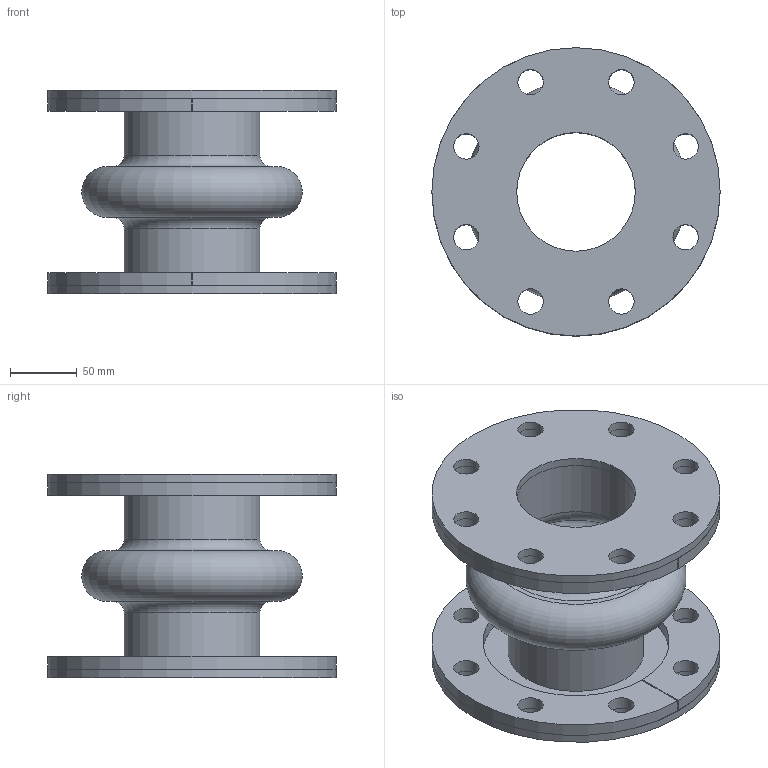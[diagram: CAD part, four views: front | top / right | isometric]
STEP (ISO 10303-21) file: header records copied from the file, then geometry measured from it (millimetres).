
FILE_DESCRIPTION(/* description */ (''),/* implementation_level */ '2;1');
FILE_NAME(/* name */ '3.5x6.stp',/* time_stamp */ '2026-07-21T15:56:11-05:00',/* author */ ('linda'),/* organization */ (''),/* preprocessor_version */ 'ST-DEVELOPER v20.1',/* originating_system */ 'Autodesk Inventor 2026',/* authorisation */ '');
FILE_SCHEMA (('AUTOMOTIVE_DESIGN { 1 0 10303 214 3 1 1 }'));
Length unit declared in the file: inch
Products named in the file (1): Part16
Bounding box: 215.9 x 215.9 x 152.4 mm (x, y, z)
Volume: 1121727.4 mm3; surface area: 363104.3 mm2
Topology: 5 solids, 5 shells, 78 faces, 186 edges, 124 vertices
Faces by surface type: cylinder 48, plane 24, torus 6
Full cylindrical faces by diameter (mm): 19.05 x32, 88.9 x4, 101.6 x2, 215.9 x2
Entity records: 2593 total; most frequent: DIRECTION 458, CARTESIAN_POINT 389, ORIENTED_EDGE 372, AXIS2_PLACEMENT_3D 193, EDGE_CURVE 186, EDGE_LOOP 150, VERTEX_POINT 124, CIRCLE 114
